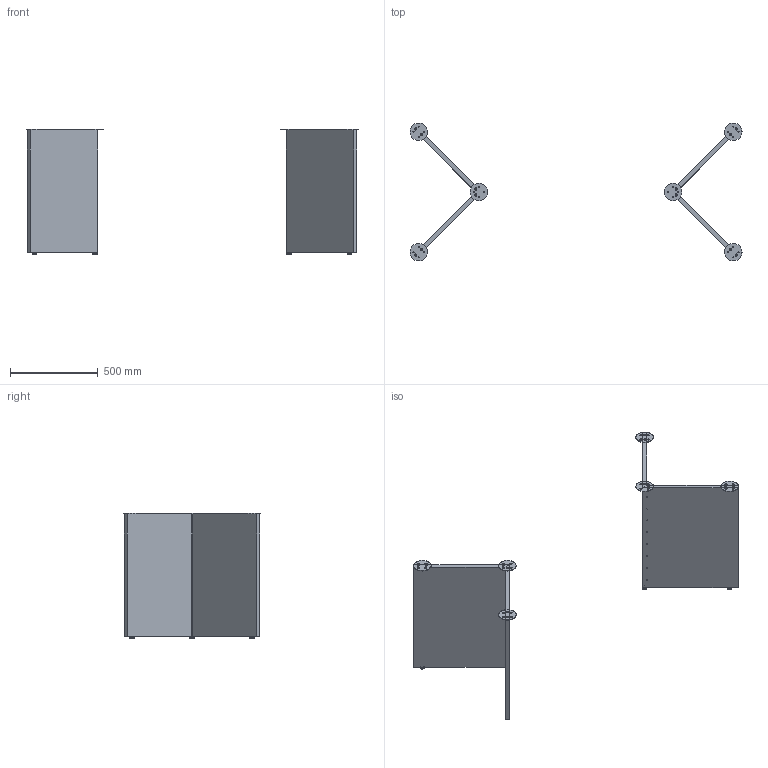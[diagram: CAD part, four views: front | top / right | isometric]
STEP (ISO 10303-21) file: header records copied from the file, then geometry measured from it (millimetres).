
FILE_DESCRIPTION(/* description */ (''),/* implementation_level */ '2;1');
FILE_NAME(/* name */ 'M0UGK4~W',/* time_stamp */ '2019-03-20T11:39:48+01:00',/* author */ (''),/* organization */ (''),/* preprocessor_version */ 'ST-DEVELOPER v16.5',/* originating_system */ '',/* authorisation */ '');
FILE_SCHEMA (('AUTOMOTIVE_DESIGN'));
Length unit declared in the file: millimetre
Products named in the file (1): Document
Bounding box: 1897.28 x 787.31 x 716.5 mm (x, y, z)
Volume: 37638264.6 mm3; surface area: 3416496.6 mm2
Topology: 54 solids, 58 shells, 448 faces, 910 edges, 558 vertices
Faces by surface type: bspline 316, plane 132
Entity records: 12774 total; most frequent: CARTESIAN_POINT 7110, ORIENTED_EDGE 1728, EDGE_CURVE 868, VERTEX_POINT 556, EDGE_LOOP 544, ADVANCED_FACE 448, FACE_OUTER_BOUND 448, B_SPLINE_CURVE_WITH_KNOTS 274
